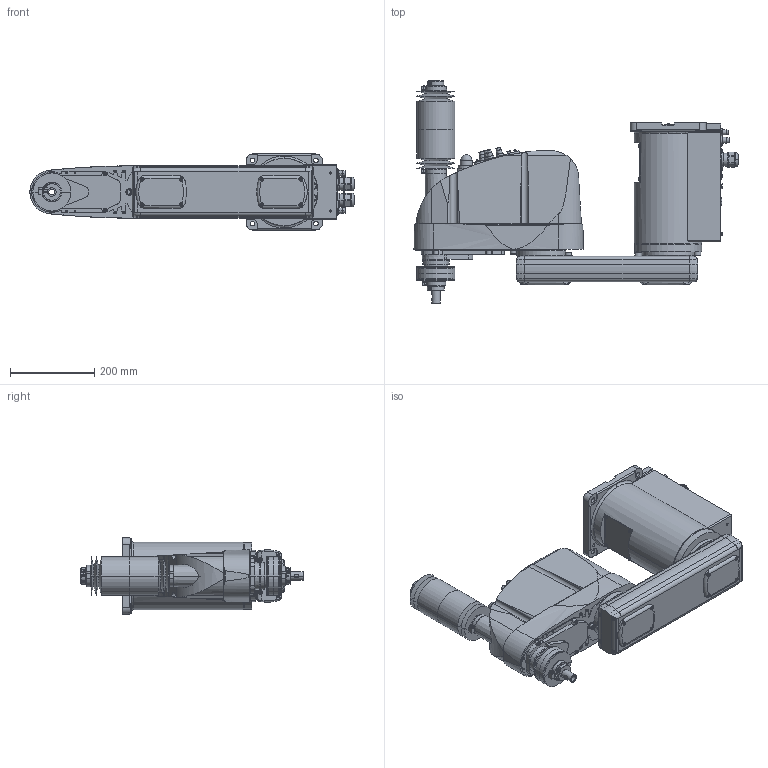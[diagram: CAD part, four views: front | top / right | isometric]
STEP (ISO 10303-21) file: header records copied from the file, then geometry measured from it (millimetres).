
FILE_DESCRIPTION( ( '' ), '1' );
FILE_NAME( '//expscmdclustefs.cadenas.external/client_exchange/iodir/jobs/output/wkb51535935_no0/STEP/G6_551CR_2_03.stp', '2012-11-23T09:28:38', ( '' ), ( '' ), ' ', ' ', ' ' );
FILE_SCHEMA( ( 'CONFIG_CONTROL_DESIGN' ) );
Length unit declared in the file: millimetre
Products named in the file (8): 1; 2; 3; 4; 5; 6; 7; 8
Bounding box: 767.5 x 526 x 180 mm (x, y, z)
Volume: 21387640.6 mm3; surface area: 1083776.4 mm2
Topology: 8 solids, 8 shells, 1798 faces, 4383 edges, 2813 vertices
Faces by surface type: plane 926, cylinder 604, cone 232, torus 35, sphere 1
Entity records: 56370 total; most frequent: CARTESIAN_POINT 12826, DIRECTION 9272, ORIENTED_EDGE 8714, EDGE_CURVE 4357, AXIS2_PLACEMENT_3D 3329, VERTEX_POINT 2813, LINE 2614, VECTOR 2614
